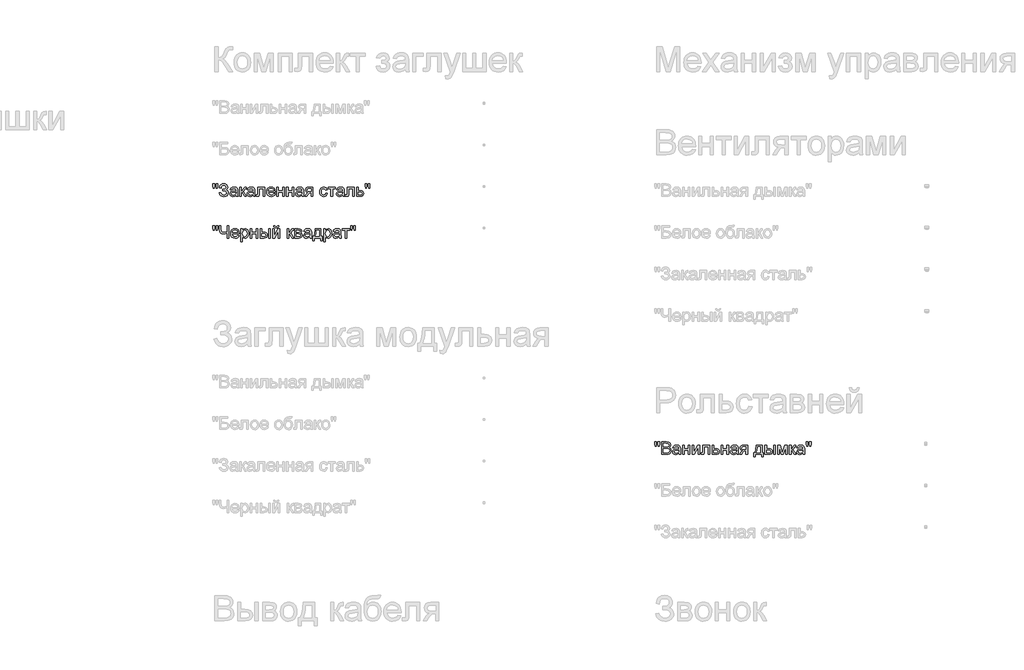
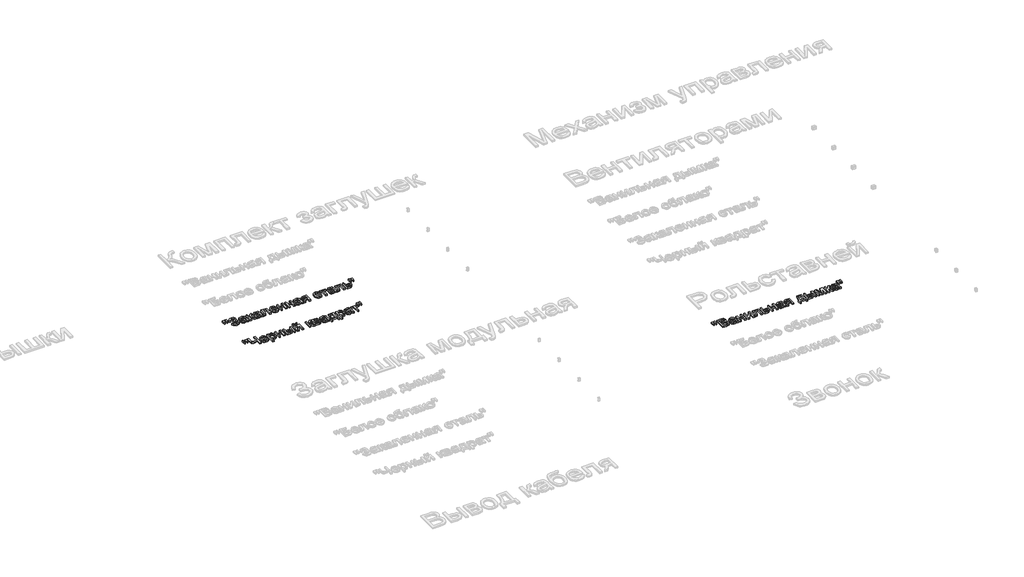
# One storey, part 69 of 168: 3 proxies.
"""IFC4 building model written with IfcOpenShell, lengths in millimetres."""

from ifc_helpers import new_model, si_unit, origin, origin_with_axes, place, context, project, spatial, polyline, outline, extrude, element, save

model = new_model("IFC4")

# Units and contexts
model_context = context("Model", 3, world=origin())
ifc_project = project(units=[si_unit("LENGTHUNIT", "METRE", prefix="MILLI")], contexts=[model_context])

# Site, building, storey
site = spatial("IfcSite", under=ifc_project)
building = spatial("IfcBuilding", under=site)
storey = spatial("IfcBuildingStorey", under=building, Name="Этаж 01", Elevation=0.0)

# Proxies
placement = place(None, origin())
element("IfcBuildingElementProxy", 1, Name="150", ObjectType="150", at=placement, inside=storey, context=model_context, shape_type="SweptSolid", body=[
    extrude(outline(polyline([(49080.1485789, -32370.3300622), (49075.550054, -32341.2305964), (49075.550054, -32316.1778325), (49094.3856121, -32316.1778325), (49094.3856121, -32341.2305964), (49090.2653338, -32370.3300622), (49080.1485789, -32370.3300622)])), origin_with_axes(), (0.0, 0.0, 1.0), 20.0),
    extrude(outline(polyline([(49117.7093306, -32370.3300622), (49113.2211703, -32341.2305964), (49113.2211703, -32316.1778325), (49132.0567284, -32316.1778325), (49132.0567284, -32341.2305964), (49127.6421445, -32370.3300622), (49117.7093306, -32370.3300622)])), origin_with_axes(), (0.0, 0.0, 1.0), 20.0),
    extrude(outline(polyline([(49150.8922866, -32424.4822919), (49169.7278447, -32419.7734024), (49181.2977335, -32440.172459), (49192.2284273, -32447.829003), (49206.2217387, -32450.3811843), (49220.398991, -32448.4635995), (49231.2193202, -32442.7108448), (49238.0757209, -32434.2449603), (49240.3611878, -32424.1879863), (49237.8641888, -32413.6527657), (49230.3731916, -32405.517975), (49218.5779752, -32400.3170433), (49203.1683181, -32398.5833994), (49193.2722924, -32398.5833994), (49193.2722924, -32379.7478413), (49214.591054, -32378.221131), (49227.6324708, -32370.4220327), (49233.2978535, -32356.1666054), (49231.4124583, -32347.2960508), (49225.7562726, -32339.6670979), (49216.8811195, -32334.4109839), (49205.3388219, -32332.6589459), (49186.1169876, -32338.0484171), (49175.117316, -32352.3406326), (49172.0822895, -32365.6211727), (49153.2467313, -32360.9122831), (49159.0983543, -32340.3108914), (49169.7002536, -32325.5956116), (49185.0524291, -32316.7664437), (49205.1548809, -32313.8233877), (49224.5468605, -32316.8814068), (49239.4598769, -32326.0554641), (49248.965028, -32339.3222085), (49252.1334117, -32354.6582892), (49247.2037929, -32373.3007093), (49232.4149367, -32387.2158458), (49242.8903765, -32392.0396984), (49251.5080123, -32400.1836861), (49257.2745625, -32410.948833), (49259.196746, -32423.6361633), (49255.508729, -32441.4738415), (49244.444678, -32456.1385376), (49227.2921799, -32465.9471913), (49205.3388219, -32469.2167425), (49186.2365493, -32466.4208393), (49170.7947025, -32458.0331298), (49159.0132816, -32444.053614), (49150.8922866, -32424.4822919)])), origin_with_axes(), (0.0, 0.0, 1.0), 20.0),
    extrude(outline(polyline([(49353.3745367, -32452.7356291), (49335.1091957, -32465.5011344), (49314.9308682, -32469.2167425), (49299.1901174, -32466.9818594), (49287.5788419, -32460.27721), (49280.4189386, -32450.0960758), (49278.0323041, -32437.4317381), (49281.6375477, -32422.5325173), (49291.110509, -32411.7167867), (49304.2990786, -32405.5363691), (49320.596251, -32402.7036778), (49353.2641721, -32396.2289547), (49353.3745367, -32392.0350999), (49352.0777527, -32383.6289963), (49348.1874006, -32378.1291605), (49339.4869914, -32374.0456704), (49327.3652797, -32372.684507), (49308.3089923, -32376.3081446), (49299.222307, -32389.1656204), (49280.3867489, -32386.8111756), (49288.5353351, -32368.4170758), (49304.9428721, -32357.6381334), (49329.7933008, -32353.8489488), (49352.6203786, -32357.196675), (49365.5146426, -32365.6027786), (49371.2903899, -32378.3866779), (49372.2100949, -32394.8677913), (49372.2100949, -32418.3018744), (49373.1665881, -32451.0249778), (49376.9189844, -32466.8622977), (49358.0834263, -32466.8622977), (49353.3745367, -32452.7356291)]), holes=[polyline([(49353.3745367, -32415.0645128), (49322.9874839, -32420.8402601), (49306.782282, -32423.8936807), (49299.4430362, -32428.8600876), (49296.8678623, -32436.1073629), (49302.4780627, -32446.2976942), (49318.940782, -32450.3811843), (49337.9970693, -32445.8746299), (49350.284328, -32434.9669288), (49353.2641721, -32420.3988017), (49353.3745367, -32415.0645128)])]), origin_with_axes(), (0.0, 0.0, 1.0), 20.0),
    extrude(outline(polyline([(49398.1089873, -32356.2033936), (49416.9445455, -32356.2033936), (49416.9445455, -32403.292289), (49429.5628979, -32399.9077746), (49439.900382, -32380.1892997), (49448.4904266, -32363.1747574), (49456.0687957, -32357.6381334), (49469.8459764, -32356.2033936), (49473.4512199, -32356.2033936), (49473.4512199, -32375.1493163), (49468.3744484, -32375.0389517), (49459.1773985, -32377.0255145), (49452.7026754, -32389.4231377), (49445.1059122, -32402.8324365), (49434.4557285, -32409.3991301), (49446.3383169, -32416.7291788), (49458.0001762, -32432.1710256), (49478.1601095, -32466.8622977), (49456.7493774, -32466.8622977), (49436.9941142, -32432.9067896), (49427.0613004, -32418.5409977), (49416.9445455, -32415.0645128), (49416.9445455, -32466.8622977), (49398.1089873, -32466.8622977), (49398.1089873, -32356.2033936)])), origin_with_axes(), (0.0, 0.0, 1.0), 20.0),
    extrude(outline(polyline([(49560.5656764, -32452.7356291), (49542.3003353, -32465.5011344), (49522.1220079, -32469.2167425), (49506.381257, -32466.9818594), (49494.7699816, -32460.27721), (49487.6100782, -32450.0960758), (49485.2234438, -32437.4317381), (49488.8286873, -32422.5325173), (49498.3016487, -32411.7167867), (49511.4902183, -32405.5363691), (49527.7873906, -32402.7036778), (49560.4553118, -32396.2289547), (49560.5656764, -32392.0350999), (49559.2688924, -32383.6289963), (49555.3785403, -32378.1291605), (49546.6781311, -32374.0456704), (49534.5564193, -32372.684507), (49515.500132, -32376.3081446), (49506.4134467, -32389.1656204), (49487.5778886, -32386.8111756), (49495.7264748, -32368.4170758), (49512.1340117, -32357.6381334), (49536.9844405, -32353.8489488), (49559.8115183, -32357.196675), (49572.7057822, -32365.6027786), (49578.4815296, -32378.3866779), (49579.4012346, -32394.8677913), (49579.4012346, -32418.3018744), (49580.3577277, -32451.0249778), (49584.1101241, -32466.8622977), (49565.2745659, -32466.8622977), (49560.5656764, -32452.7356291)]), holes=[polyline([(49560.5656764, -32415.0645128), (49530.1786236, -32420.8402601), (49513.9734217, -32423.8936807), (49506.6341759, -32428.8600876), (49504.0590019, -32436.1073629), (49509.6692024, -32446.2976942), (49526.1319217, -32450.3811843), (49545.188209, -32445.8746299), (49557.4754676, -32434.9669288), (49560.4553118, -32420.3988017), (49560.5656764, -32415.0645128)])]), origin_with_axes(), (0.0, 0.0, 1.0), 20.0),
    extrude(outline(polyline([(49614.7179061, -32356.2033936), (49699.4779178, -32356.2033936), (49699.4779178, -32466.7519331), (49680.6423596, -32466.7519331), (49680.6423596, -32375.0389517), (49633.5534643, -32375.0389517), (49633.5534643, -32427.830018), (49632.2842714, -32452.1838061), (49625.3129076, -32462.4661079), (49608.8317942, -32466.8622977), (49593.5279032, -32465.9058045), (49593.5279032, -32448.0267396), (49601.9524009, -32448.0267396), (49610.4688691, -32446.8679113), (49613.8717775, -32443.1890913), (49614.7179061, -32426.7631603), (49614.7179061, -32356.2033936)])), origin_with_axes(), (0.0, 0.0, 1.0), 20.0),
    extrude(outline(polyline([(49805.2072032, -32433.900071), (49823.6748794, -32436.2545157), (49817.0208138, -32450.1696522), (49806.4028197, -32460.5715156), (49792.0600204, -32467.0554358), (49774.2315392, -32469.2167425), (49752.1310283, -32465.4873388), (49735.1256831, -32454.2991276), (49724.2823613, -32436.3786759), (49720.6679207, -32412.4525506), (49724.3191495, -32387.7216835), (49735.2728359, -32369.2264162), (49752.0482549, -32357.6933157), (49773.1646814, -32353.8489488), (49793.6235189, -32357.6841186), (49809.971275, -32369.189628), (49820.6904367, -32387.6481071), (49824.2634906, -32412.342186), (49824.153126, -32417.4189576), (49739.5034789, -32417.4189576), (49742.763833, -32431.518035), (49750.3376036, -32441.8831103), (49761.2682974, -32448.2566658), (49774.5994212, -32450.3811843), (49793.0670974, -32446.444847), (49805.2072032, -32433.900071)]), holes=[polyline([(49739.5034789, -32398.5833994), (49805.4279324, -32398.5833994), (49802.8803496, -32388.6321915), (49797.8863515, -32381.5136749), (49786.9050739, -32374.8917989), (49773.091105, -32372.684507), (49760.3945777, -32374.445742), (49749.8961452, -32379.7294472), (49742.5982861, -32387.9654053), (49739.5034789, -32398.5833994)])]), origin_with_axes(), (0.0, 0.0, 1.0), 20.0),
    extrude(outline(polyline([(49843.0990487, -32356.2033936), (49861.9346069, -32356.2033936), (49861.9346069, -32398.5833994), (49911.377947, -32398.5833994), (49911.377947, -32356.2033936), (49930.2135052, -32356.2033936), (49930.2135052, -32466.8622977), (49911.377947, -32466.8622977), (49911.377947, -32417.4189576), (49861.9346069, -32417.4189576), (49861.9346069, -32466.8622977), (49843.0990487, -32466.8622977), (49843.0990487, -32356.2033936)])), origin_with_axes(), (0.0, 0.0, 1.0), 20.0),
    extrude(outline(polyline([(49958.4668424, -32356.2033936), (49977.3024005, -32356.2033936), (49977.3024005, -32398.5833994), (50026.7457407, -32398.5833994), (50026.7457407, -32356.2033936), (50045.5812988, -32356.2033936), (50045.5812988, -32466.8622977), (50026.7457407, -32466.8622977), (50026.7457407, -32417.4189576), (49977.3024005, -32417.4189576), (49977.3024005, -32466.8622977), (49958.4668424, -32466.8622977), (49958.4668424, -32356.2033936)])), origin_with_axes(), (0.0, 0.0, 1.0), 20.0),
    extrude(outline(polyline([(50144.4679792, -32452.7356291), (50126.2026381, -32465.5011344), (50106.0243107, -32469.2167425), (50090.2835598, -32466.9818594), (50078.6722843, -32460.27721), (50071.512381, -32450.0960758), (50069.1257465, -32437.4317381), (50072.7309901, -32422.5325173), (50082.2039515, -32411.7167867), (50095.392521, -32405.5363691), (50111.6896934, -32402.7036778), (50144.3576146, -32396.2289547), (50144.4679792, -32392.0350999), (50143.1711951, -32383.6289963), (50139.280843, -32378.1291605), (50130.5804338, -32374.0456704), (50118.4587221, -32372.684507), (50099.4024347, -32376.3081446), (50090.3157495, -32389.1656204), (50071.4801913, -32386.8111756), (50079.6287775, -32368.4170758), (50096.0363145, -32357.6381334), (50120.8867433, -32353.8489488), (50143.7138211, -32357.196675), (50156.608085, -32365.6027786), (50162.3838323, -32378.3866779), (50163.3035373, -32394.8677913), (50163.3035373, -32418.3018744), (50164.2600305, -32451.0249778), (50168.0124268, -32466.8622977), (50149.1768687, -32466.8622977), (50144.4679792, -32452.7356291)]), holes=[polyline([(50144.4679792, -32415.0645128), (50114.0809264, -32420.8402601), (50097.8757245, -32423.8936807), (50090.5364787, -32428.8600876), (50087.9613047, -32436.1073629), (50093.5715051, -32446.2976942), (50110.0342244, -32450.3811843), (50129.0905118, -32445.8746299), (50141.3777704, -32434.9669288), (50144.3576146, -32420.3988017), (50144.4679792, -32415.0645128)])]), origin_with_axes(), (0.0, 0.0, 1.0), 20.0),
    extrude(outline(polyline([(50273.9624415, -32356.2033936), (50273.9624415, -32466.8622977), (50255.1268833, -32466.8622977), (50255.1268833, -32424.4822919), (50244.8629756, -32424.4822919), (50230.8834598, -32426.8735249), (50217.7500726, -32442.949968), (50202.7404872, -32466.8622977), (50180.9618731, -32466.8622977), (50199.8710076, -32436.6223977), (50208.2219289, -32425.7698789), (50215.9106626, -32420.9506247), (50203.0347928, -32417.0050903), (50193.9848957, -32409.5094947), (50188.6322127, -32399.5398926), (50186.847985, -32388.172339), (50189.2852032, -32375.278075), (50196.5968579, -32365.0693497), (50208.5254316, -32358.4198826), (50224.8134069, -32356.2033936), (50273.9624415, -32356.2033936)]), holes=[polyline([(50255.1268833, -32375.0389517), (50230.2948486, -32375.0389517), (50217.4695626, -32376.1288021), (50210.1900976, -32379.3983534), (50205.6835431, -32389.6070787), (50207.3436107, -32396.7853762), (50212.3238132, -32401.7655787), (50235.8498668, -32405.6467337), (50255.1268833, -32405.6467337), (50255.1268833, -32375.0389517)])]), origin_with_axes(), (0.0, 0.0, 1.0), 20.0),
    extrude(outline(polyline([(50431.710241, -32426.8367367), (50450.5457991, -32429.1911814), (50445.2942837, -32445.9436078), (50435.4258491, -32458.6033469), (50421.8693976, -32466.5633936), (50405.5538311, -32469.2167425), (50385.518058, -32465.5149299), (50369.8508835, -32454.4094922), (50359.7387272, -32436.387873), (50356.3680084, -32411.9375159), (50357.8073467, -32395.1758924), (50362.1253616, -32380.6491522), (50369.391031, -32368.918315), (50379.6733328, -32360.5444011), (50391.974387, -32355.5228119), (50405.2963137, -32353.8489488), (50421.2118085, -32356.1482113), (50433.9359271, -32363.0459987), (50443.0639991, -32374.174429), (50448.1913544, -32389.1656204), (50429.3557962, -32391.5200651), (50420.6185988, -32377.4117906), (50405.4434665, -32372.684507), (50393.271171, -32375.0113606), (50383.6096701, -32381.9919214), (50377.3050924, -32394.0032686), (50375.2035665, -32411.4224811), (50377.2591072, -32429.0762183), (50383.4257291, -32441.1289522), (50392.9124861, -32448.0681263), (50404.9284317, -32450.3811843), (50414.6819031, -32448.9372475), (50422.678738, -32444.605437), (50428.4958721, -32437.2753883), (50431.710241, -32426.8367367)])), origin_with_axes(), (0.0, 0.0, 1.0), 20.0),
    extrude(outline(polyline([(50457.6091334, -32356.2033936), (50547.0780347, -32356.2033936), (50547.0780347, -32375.0389517), (50511.7613631, -32375.0389517), (50511.7613631, -32466.8622977), (50492.925805, -32466.8622977), (50492.925805, -32375.0389517), (50457.6091334, -32375.0389517), (50457.6091334, -32356.2033936)])), origin_with_axes(), (0.0, 0.0, 1.0), 20.0),
    extrude(outline(polyline([(50634.1924911, -32452.7356291), (50615.9271501, -32465.5011344), (50595.7488226, -32469.2167425), (50580.0080718, -32466.9818594), (50568.3967963, -32460.27721), (50561.236893, -32450.0960758), (50558.8502585, -32437.4317381), (50562.4555021, -32422.5325173), (50571.9284634, -32411.7167867), (50585.117033, -32405.5363691), (50601.4142054, -32402.7036778), (50634.0821265, -32396.2289547), (50634.1924911, -32392.0350999), (50632.8957071, -32383.6289963), (50629.005355, -32378.1291605), (50620.3049458, -32374.0456704), (50608.1832341, -32372.684507), (50589.1269467, -32376.3081446), (50580.0402614, -32389.1656204), (50561.2047033, -32386.8111756), (50569.3532895, -32368.4170758), (50585.7608265, -32357.6381334), (50610.6112552, -32353.8489488), (50633.438333, -32357.196675), (50646.332597, -32365.6027786), (50652.1083443, -32378.3866779), (50653.0280493, -32394.8677913), (50653.0280493, -32418.3018744), (50653.9845425, -32451.0249778), (50657.7369388, -32466.8622977), (50638.9013807, -32466.8622977), (50634.1924911, -32452.7356291)]), holes=[polyline([(50634.1924911, -32415.0645128), (50603.8054383, -32420.8402601), (50587.6002364, -32423.8936807), (50580.2609906, -32428.8600876), (50577.6858167, -32436.1073629), (50583.2960171, -32446.2976942), (50599.7587364, -32450.3811843), (50618.8150237, -32445.8746299), (50631.1022824, -32434.9669288), (50634.0821265, -32420.3988017), (50634.1924911, -32415.0645128)])]), origin_with_axes(), (0.0, 0.0, 1.0), 20.0),
    extrude(outline(polyline([(50688.3447208, -32356.2033936), (50773.1047325, -32356.2033936), (50773.1047325, -32466.7519331), (50754.2691744, -32466.7519331), (50754.2691744, -32375.0389517), (50707.180279, -32375.0389517), (50707.180279, -32427.830018), (50705.9110861, -32452.1838061), (50698.9397223, -32462.4661079), (50682.4586089, -32466.8622977), (50667.1547179, -32465.9058045), (50667.1547179, -32448.0267396), (50675.5792156, -32448.0267396), (50684.0956838, -32446.8679113), (50687.4985922, -32443.1890913), (50688.3447208, -32426.7631603), (50688.3447208, -32356.2033936)])), origin_with_axes(), (0.0, 0.0, 1.0), 20.0),
    extrude(outline(polyline([(50801.3580697, -32356.2033936), (50820.1936279, -32356.2033936), (50820.1936279, -32396.2289547), (50841.8986656, -32396.2289547), (50860.7158297, -32398.587998), (50874.6401632, -32405.6651278), (50883.2486019, -32416.8901272), (50886.1180814, -32431.692779), (50883.6762647, -32445.1710556), (50876.3508145, -32456.5432078), (50863.6542871, -32464.2825252), (50845.099239, -32466.8622977), (50801.3580697, -32466.8622977), (50801.3580697, -32356.2033936)]), holes=[polyline([(50820.1936279, -32448.0267396), (50837.7783873, -32448.0267396), (50860.4951005, -32444.0720081), (50865.5856676, -32439.0090322), (50867.2825233, -32431.7295672), (50862.260934, -32420.1412843), (50854.1905228, -32416.3337057), (50840.0224674, -32415.0645128), (50820.1936279, -32415.0645128), (50820.1936279, -32448.0267396)])]), origin_with_axes(), (0.0, 0.0, 1.0), 20.0),
    extrude(outline(polyline([(50909.5521645, -32370.3300622), (50904.9536396, -32341.2305964), (50904.9536396, -32316.1778325), (50923.7891977, -32316.1778325), (50923.7891977, -32341.2305964), (50919.6689194, -32370.3300622), (50909.5521645, -32370.3300622)])), origin_with_axes(), (0.0, 0.0, 1.0), 20.0),
    extrude(outline(polyline([(50947.1129162, -32370.3300622), (50942.6247559, -32341.2305964), (50942.6247559, -32316.1778325), (50961.460314, -32316.1778325), (50961.460314, -32341.2305964), (50957.0457301, -32370.3300622), (50947.1129162, -32370.3300622)])), origin_with_axes(), (0.0, 0.0, 1.0), 20.0),
])
element("IfcBuildingElementProxy", 2, Name="150", ObjectType="150", at=placement, inside=storey, context=model_context, shape_type="SweptSolid", body=[
    extrude(outline(polyline([(49080.1485789, -32870.3300622), (49075.550054, -32841.2305964), (49075.550054, -32816.1778325), (49094.3856121, -32816.1778325), (49094.3856121, -32841.2305964), (49090.2653338, -32870.3300622), (49080.1485789, -32870.3300622)])), origin_with_axes(), (0.0, 0.0, 1.0), 20.0),
    extrude(outline(polyline([(49117.7093306, -32870.3300622), (49113.2211703, -32841.2305964), (49113.2211703, -32816.1778325), (49132.0567284, -32816.1778325), (49132.0567284, -32841.2305964), (49127.6421445, -32870.3300622), (49117.7093306, -32870.3300622)])), origin_with_axes(), (0.0, 0.0, 1.0), 20.0),
    extrude(outline(polyline([(49263.9056355, -32966.8622977), (49245.0700773, -32966.8622977), (49245.0700773, -32906.5296505), (49220.0908899, -32914.6966308), (49198.4226404, -32917.4189576), (49183.7395502, -32915.556555), (49170.886673, -32909.9693472), (49160.926268, -32901.5172583), (49154.9205944, -32891.0602126), (49150.8922866, -32861.0594359), (49150.8922866, -32816.1778325), (49169.7278447, -32816.1778325), (49169.7278447, -32858.5210502), (49171.990319, -32878.8879171), (49178.7777418, -32890.8394834), (49188.7381468, -32896.6474204), (49200.5195677, -32898.5833994), (49222.2521966, -32896.2473488), (49245.0700773, -32889.2391968), (49245.0700773, -32816.1778325), (49263.9056355, -32816.1778325), (49263.9056355, -32966.8622977)])), origin_with_axes(), (0.0, 0.0, 1.0), 20.0),
    extrude(outline(polyline([(49371.9893657, -32933.900071), (49390.4570418, -32936.2545157), (49383.8029763, -32950.1696522), (49373.1849822, -32960.5715156), (49358.8421829, -32967.0554358), (49341.0137017, -32969.2167425), (49318.9131908, -32965.4873388), (49301.9078456, -32954.2991276), (49291.0645238, -32936.3786759), (49287.4500832, -32912.4525506), (49291.101312, -32887.7216835), (49302.0549984, -32869.2264162), (49318.8304174, -32857.6933157), (49339.9468439, -32853.8489488), (49360.4056814, -32857.6841186), (49376.7534375, -32869.189628), (49387.4725992, -32887.6481071), (49391.045653, -32912.342186), (49390.9352884, -32917.4189576), (49306.2856413, -32917.4189576), (49309.5459955, -32931.518035), (49317.1197661, -32941.8831103), (49328.0504599, -32948.2566658), (49341.3815837, -32950.3811843), (49359.8492598, -32946.444847), (49371.9893657, -32933.900071)]), holes=[polyline([(49306.2856413, -32898.5833994), (49372.2100949, -32898.5833994), (49369.6625121, -32888.6321915), (49364.668514, -32881.5136749), (49353.6872364, -32874.8917989), (49339.8732675, -32872.684507), (49327.1767401, -32874.445742), (49316.6783077, -32879.7294472), (49309.3804486, -32887.9654053), (49306.2856413, -32898.5833994)])]), origin_with_axes(), (0.0, 0.0, 1.0), 20.0),
    extrude(outline(polyline([(49409.8812112, -33009.2423036), (49409.8812112, -32856.2033936), (49428.7167693, -32856.2033936), (49428.7167693, -32874.6710697), (49441.739792, -32859.054479), (49459.3245513, -32853.8489488), (49472.0624654, -32855.6699647), (49483.2000928, -32861.1330123), (49492.268384, -32869.9069979), (49498.7982894, -32881.6608277), (49504.0590019, -32910.6867171), (49502.5736784, -32926.7953499), (49498.1177077, -32941.2025286), (49490.8336442, -32953.1770875), (49480.8640422, -32961.9878613), (49469.2527667, -32967.4095222), (49457.043683, -32969.2167425), (49440.6545401, -32964.3790943), (49428.7167693, -32952.1470179), (49428.7167693, -33009.2423036), (49409.8812112, -33009.2423036)]), holes=[polyline([(49428.7167693, -32912.4157624), (49430.7539159, -32929.301546), (49436.8653555, -32941.1105581), (49445.8830629, -32948.0635278), (49456.6390128, -32950.3811843), (49467.5697066, -32947.9807543), (49476.8173402, -32940.7794643), (49483.1219179, -32928.5381909), (49485.2234438, -32911.0178109), (49483.1725017, -32894.2239978), (49477.0196753, -32882.2494388), (49468.0157635, -32875.0757399), (49457.411565, -32872.684507), (49446.7659797, -32875.2274913), (49437.4171785, -32882.8564441), (49430.8918716, -32895.3322423), (49428.7167693, -32912.4157624)])]), origin_with_axes(), (0.0, 0.0, 1.0), 20.0),
    extrude(outline(polyline([(49525.2490049, -32856.2033936), (49544.084563, -32856.2033936), (49544.084563, -32898.5833994), (49593.5279032, -32898.5833994), (49593.5279032, -32856.2033936), (49612.3634613, -32856.2033936), (49612.3634613, -32966.8622977), (49593.5279032, -32966.8622977), (49593.5279032, -32917.4189576), (49544.084563, -32917.4189576), (49544.084563, -32966.8622977), (49525.2490049, -32966.8622977), (49525.2490049, -32856.2033936)])), origin_with_axes(), (0.0, 0.0, 1.0), 20.0),
    extrude(outline(polyline([(49744.2123684, -32856.2033936), (49763.0479266, -32856.2033936), (49763.0479266, -32966.8622977), (49744.2123684, -32966.8622977), (49744.2123684, -32856.2033936)])), origin_with_axes(), (0.0, 0.0, 1.0), 20.0),
    extrude(outline(polyline([(49640.6167986, -32856.2033936), (49659.4523567, -32856.2033936), (49659.4523567, -32896.2289547), (49682.739287, -32896.2289547), (49702.8670307, -32898.587998), (49717.780047, -32905.6651278), (49727.0092866, -32916.8901272), (49730.0856998, -32931.692779), (49727.5059273, -32945.1710556), (49719.7666098, -32956.5432078), (49706.3619096, -32964.2825252), (49686.785989, -32966.8622977), (49640.6167986, -32966.8622977), (49640.6167986, -32856.2033936)]), holes=[polyline([(49659.4523567, -32948.0267396), (49678.8029497, -32948.0267396), (49703.7821371, -32944.0720081), (49709.3831405, -32939.0090322), (49711.2501416, -32931.7295672), (49705.7135176, -32920.1412843), (49696.8337659, -32916.3337057), (49681.267759, -32915.0645128), (49659.4523567, -32915.0645128), (49659.4523567, -32948.0267396)])]), origin_with_axes(), (0.0, 0.0, 1.0), 20.0),
    extrude(outline(polyline([(49791.3012638, -32856.2033936), (49810.1368219, -32856.2033936), (49810.1368219, -32940.5955233), (49856.4163769, -32856.2033936), (49880.770165, -32856.2033936), (49880.770165, -32966.8622977), (49861.9346069, -32966.8622977), (49861.9346069, -32882.9852028), (49815.9493575, -32966.8622977), (49791.3012638, -32966.8622977), (49791.3012638, -32856.2033936)])), origin_with_axes(), (0.0, 0.0, 1.0), 20.0),
    extrude(outline(polyline([(49852.5168278, -32816.1778325), (49866.6434964, -32816.1778325), (49863.6038714, -32828.2397634), (49857.5016288, -32837.1287121), (49848.6126801, -32842.6055553), (49837.2129368, -32844.4311697), (49824.8429047, -32842.6193509), (49815.2503817, -32837.1838944), (49808.6928851, -32828.3087413), (49805.4279324, -32816.1778325), (49819.554601, -32816.1778325), (49824.8521017, -32826.7912281), (49835.5206796, -32830.3045011), (49847.219327, -32826.9015927), (49852.5168278, -32816.1778325)])), origin_with_axes(), (0.0, 0.0, 1.0), 20.0),
    extrude(outline(polyline([(49967.8846215, -32856.2033936), (49986.7201796, -32856.2033936), (49986.7201796, -32903.292289), (49999.3385321, -32899.9077746), (50009.6760161, -32880.1892997), (50018.2660607, -32863.1747574), (50025.8444298, -32857.6381334), (50039.6216105, -32856.2033936), (50043.2268541, -32856.2033936), (50043.2268541, -32875.1493163), (50038.1500825, -32875.0389517), (50028.9530327, -32877.0255145), (50022.4783096, -32889.4231377), (50014.8815464, -32902.8324365), (50004.2313626, -32909.3991301), (50016.113951, -32916.7291788), (50027.7758103, -32932.1710256), (50047.9357436, -32966.8622977), (50026.5250115, -32966.8622977), (50006.7697484, -32932.9067896), (49996.8369345, -32918.5409977), (49986.7201796, -32915.0645128), (49986.7201796, -32966.8622977), (49967.8846215, -32966.8622977), (49967.8846215, -32856.2033936)])), origin_with_axes(), (0.0, 0.0, 1.0), 20.0),
    extrude(outline(polyline([(50059.7079675, -32856.2033936), (50101.2050565, -32856.2033936), (50123.9585579, -32858.7233853), (50136.7608514, -32867.9572233), (50142.1135344, -32884.0520606), (50138.8761728, -32897.1302655), (50129.1273, -32906.4560741), (50141.7824406, -32916.6647995), (50146.8224239, -32934.4151058), (50143.6310476, -32948.7717006), (50136.0434815, -32958.8792584), (50124.0321343, -32964.8665379), (50107.569415, -32966.8622977), (50059.7079675, -32966.8622977), (50059.7079675, -32856.2033936)]), holes=[polyline([(50078.5435256, -32898.5833994), (50097.1583546, -32898.5833994), (50112.5174279, -32897.6269062), (50119.9854324, -32893.8009335), (50123.2779762, -32886.884752), (50121.8340394, -32881.2653545), (50117.5022289, -32877.6509139), (50097.7469658, -32875.0389517), (50078.5435256, -32875.0389517), (50078.5435256, -32898.5833994)]), polyline([(50078.5435256, -32948.0267396), (50101.6465149, -32948.0267396), (50122.137542, -32944.6238311), (50126.377382, -32939.9839195), (50127.9868658, -32932.8700014), (50124.7678983, -32923.8017102), (50116.3801888, -32918.5226036), (50099.8071049, -32917.4189576), (50078.5435256, -32917.4189576), (50078.5435256, -32948.0267396)])]), origin_with_axes(), (0.0, 0.0, 1.0), 20.0),
    extrude(outline(polyline([(50241.0002147, -32952.7356291), (50222.7348736, -32965.5011344), (50202.5565462, -32969.2167425), (50186.8157953, -32966.9818594), (50175.2045198, -32960.27721), (50168.0446165, -32950.0960758), (50165.6579821, -32937.4317381), (50169.2632256, -32922.5325173), (50178.736187, -32911.7167867), (50191.9247565, -32905.5363691), (50208.2219289, -32902.7036778), (50240.8898501, -32896.2289547), (50241.0002147, -32892.0350999), (50239.7034307, -32883.6289963), (50235.8130786, -32878.1291605), (50227.1126694, -32874.0456704), (50214.9909576, -32872.684507), (50195.9346703, -32876.3081446), (50186.847985, -32889.1656204), (50168.0124268, -32886.8111756), (50176.161013, -32868.4170758), (50192.56855, -32857.6381334), (50217.4189788, -32853.8489488), (50240.2460566, -32857.196675), (50253.1403205, -32865.6027786), (50258.9160679, -32878.3866779), (50259.8357728, -32894.8677913), (50259.8357728, -32918.3018744), (50260.792266, -32951.0249778), (50264.5446624, -32966.8622977), (50245.7091042, -32966.8622977), (50241.0002147, -32952.7356291)]), holes=[polyline([(50241.0002147, -32915.0645128), (50210.6131619, -32920.8402601), (50194.40796, -32923.8936807), (50187.0687142, -32928.8600876), (50184.4935402, -32936.1073629), (50190.1037407, -32946.2976942), (50206.5664599, -32950.3811843), (50225.6227473, -32945.8746299), (50237.9100059, -32934.9669288), (50240.8898501, -32920.3988017), (50241.0002147, -32915.0645128)])]), origin_with_axes(), (0.0, 0.0, 1.0), 20.0),
    extrude(outline(polyline([(50302.2157787, -32856.2033936), (50372.8491218, -32856.2033936), (50372.8491218, -32948.0267396), (50386.9757904, -32948.0267396), (50386.9757904, -32997.4700797), (50368.1402322, -32997.4700797), (50368.1402322, -32966.8622977), (50290.4435548, -32966.8622977), (50290.4435548, -32997.4700797), (50271.6079967, -32997.4700797), (50271.6079967, -32948.0267396), (50283.3802205, -32948.0267396), (50291.9380754, -32932.5619002), (50297.9299534, -32912.1030628), (50302.2157787, -32856.2033936)]), holes=[polyline([(50318.6968921, -32875.0389517), (50314.2823081, -32917.9523865), (50304.5702235, -32948.0267396), (50354.0135636, -32948.0267396), (50354.0135636, -32875.0389517), (50318.6968921, -32875.0389517)])]), origin_with_axes(), (0.0, 0.0, 1.0), 20.0),
    extrude(outline(polyline([(50408.1657933, -33009.2423036), (50408.1657933, -32856.2033936), (50427.0013514, -32856.2033936), (50427.0013514, -32874.6710697), (50440.0243741, -32859.054479), (50457.6091334, -32853.8489488), (50470.3470475, -32855.6699647), (50481.4846749, -32861.1330123), (50490.5529661, -32869.9069979), (50497.0828715, -32881.6608277), (50502.3435841, -32910.6867171), (50500.8582605, -32926.7953499), (50496.4022898, -32941.2025286), (50489.1182263, -32953.1770875), (50479.1486243, -32961.9878613), (50467.5373488, -32967.4095222), (50455.3282651, -32969.2167425), (50438.9391222, -32964.3790943), (50427.0013514, -32952.1470179), (50427.0013514, -33009.2423036), (50408.1657933, -33009.2423036)]), holes=[polyline([(50427.0013514, -32912.4157624), (50429.038498, -32929.301546), (50435.1499376, -32941.1105581), (50444.167645, -32948.0635278), (50454.9235949, -32950.3811843), (50465.8542887, -32947.9807543), (50475.1019223, -32940.7794643), (50481.4065, -32928.5381909), (50483.5080259, -32911.0178109), (50481.4570838, -32894.2239978), (50475.3042574, -32882.2494388), (50466.3003456, -32875.0757399), (50455.6961471, -32872.684507), (50445.0505618, -32875.2274913), (50435.7017606, -32882.8564441), (50429.1764537, -32895.3322423), (50427.0013514, -32912.4157624)])]), origin_with_axes(), (0.0, 0.0, 1.0), 20.0),
    extrude(outline(polyline([(50594.1669301, -32952.7356291), (50575.901589, -32965.5011344), (50555.7232616, -32969.2167425), (50539.9825107, -32966.9818594), (50528.3712352, -32960.27721), (50521.2113319, -32950.0960758), (50518.8246974, -32937.4317381), (50522.429941, -32922.5325173), (50531.9029024, -32911.7167867), (50545.0914719, -32905.5363691), (50561.3886443, -32902.7036778), (50594.0565655, -32896.2289547), (50594.1669301, -32892.0350999), (50592.870146, -32883.6289963), (50588.9797939, -32878.1291605), (50580.2793847, -32874.0456704), (50568.157673, -32872.684507), (50549.1013856, -32876.3081446), (50540.0147004, -32889.1656204), (50521.1791422, -32886.8111756), (50529.3277284, -32868.4170758), (50545.7352654, -32857.6381334), (50570.5856942, -32853.8489488), (50593.412772, -32857.196675), (50606.3070359, -32865.6027786), (50612.0827832, -32878.3866779), (50613.0024882, -32894.8677913), (50613.0024882, -32918.3018744), (50613.9589814, -32951.0249778), (50617.7113777, -32966.8622977), (50598.8758196, -32966.8622977), (50594.1669301, -32952.7356291)]), holes=[polyline([(50594.1669301, -32915.0645128), (50563.7798773, -32920.8402601), (50547.5746754, -32923.8936807), (50540.2354296, -32928.8600876), (50537.6602556, -32936.1073629), (50543.270456, -32946.2976942), (50559.7331753, -32950.3811843), (50578.7894627, -32945.8746299), (50591.0767213, -32934.9669288), (50594.0565655, -32920.3988017), (50594.1669301, -32915.0645128)])]), origin_with_axes(), (0.0, 0.0, 1.0), 20.0),
    extrude(outline(polyline([(50629.4836016, -32856.2033936), (50718.9525028, -32856.2033936), (50718.9525028, -32875.0389517), (50683.6358313, -32875.0389517), (50683.6358313, -32966.8622977), (50664.8002731, -32966.8622977), (50664.8002731, -32875.0389517), (50629.4836016, -32875.0389517), (50629.4836016, -32856.2033936)])), origin_with_axes(), (0.0, 0.0, 1.0), 20.0),
    extrude(outline(polyline([(50735.3232516, -32870.3300622), (50730.7247267, -32841.2305964), (50730.7247267, -32816.1778325), (50749.5602848, -32816.1778325), (50749.5602848, -32841.2305964), (50745.4400065, -32870.3300622), (50735.3232516, -32870.3300622)])), origin_with_axes(), (0.0, 0.0, 1.0), 20.0),
    extrude(outline(polyline([(50772.8840033, -32870.3300622), (50768.395843, -32841.2305964), (50768.395843, -32816.1778325), (50787.2314011, -32816.1778325), (50787.2314011, -32841.2305964), (50782.8168172, -32870.3300622), (50772.8840033, -32870.3300622)])), origin_with_axes(), (0.0, 0.0, 1.0), 20.0),
])
element("IfcBuildingElementProxy", 3, Name="150", ObjectType="150", at=placement, inside=storey, context=model_context, shape_type="SweptSolid", body=[
    extrude(outline(polyline([(54389.7772739, -35470.3300622), (54385.178749, -35441.2305964), (54385.178749, -35416.1778325), (54404.0143071, -35416.1778325), (54404.0143071, -35441.2305964), (54399.8940288, -35470.3300622), (54389.7772739, -35470.3300622)])), origin_with_axes(), (0.0, 0.0, 1.0), 20.0),
    extrude(outline(polyline([(54427.3380256, -35470.3300622), (54422.8498653, -35441.2305964), (54422.8498653, -35416.1778325), (54441.6854234, -35416.1778325), (54441.6854234, -35441.2305964), (54437.2708395, -35470.3300622), (54427.3380256, -35470.3300622)])), origin_with_axes(), (0.0, 0.0, 1.0), 20.0),
    extrude(outline(polyline([(54467.5843159, -35566.8622977), (54467.5843159, -35416.1778325), (54525.0842718, -35416.1778325), (54553.2456385, -35420.6108106), (54562.7094028, -35426.2348066), (54569.8739047, -35434.2408385), (54575.8887753, -35453.517855), (54570.8303979, -35471.1210085), (54555.544901, -35484.4567308), (54566.2180773, -35490.030143), (54574.1045476, -35498.509823), (54578.9743855, -35509.3347507), (54580.5976648, -35521.9439061), (54576.1646868, -35542.19581), (54565.1834092, -35556.6167842), (54548.7942663, -35564.2687297), (54524.6428134, -35566.8622977), (54467.5843159, -35566.8622977)]), holes=[polyline([(54486.4198741, -35477.3933965), (54520.8168406, -35477.3933965), (54540.9031975, -35475.7747157), (54552.9881211, -35468.8033519), (54557.0532171, -35456.5344874), (54553.2640326, -35444.2472287), (54542.4115137, -35436.9815593), (54518.2048784, -35435.0133907), (54486.4198741, -35435.0133907), (54486.4198741, -35477.3933965)]), polyline([(54486.4198741, -35548.0267396), (54525.0474836, -35548.0267396), (54539.0269994, -35547.2909756), (54550.8544055, -35543.1890913), (54558.690292, -35534.819776), (54561.7621067, -35522.1278471), (54558.1568631, -35507.4861437), (54546.4766098, -35498.7489463), (54523.2080736, -35496.2289547), (54486.4198741, -35496.2289547), (54486.4198741, -35548.0267396)])]), origin_with_axes(), (0.0, 0.0, 1.0), 20.0),
    extrude(outline(polyline([(54674.7754556, -35552.7356291), (54656.5101145, -35565.5011344), (54636.3317871, -35569.2167425), (54620.5910362, -35566.9818594), (54608.9797608, -35560.27721), (54601.8198574, -35550.0960758), (54599.433223, -35537.4317381), (54603.0384665, -35522.5325173), (54612.5114279, -35511.7167867), (54625.6999974, -35505.5363691), (54641.9971698, -35502.7036778), (54674.665091, -35496.2289547), (54674.7754556, -35492.0350999), (54673.4786716, -35483.6289963), (54669.5883195, -35478.1291605), (54660.8879103, -35474.0456704), (54648.7661985, -35472.684507), (54629.7099112, -35476.3081446), (54620.6232259, -35489.1656204), (54601.7876677, -35486.8111756), (54609.9362539, -35468.4170758), (54626.3437909, -35457.6381334), (54651.1942197, -35453.8489488), (54674.0212975, -35457.196675), (54686.9155614, -35465.6027786), (54692.6913088, -35478.3866779), (54693.6110137, -35494.8677913), (54693.6110137, -35518.3018744), (54694.5675069, -35551.0249778), (54698.3199033, -35566.8622977), (54679.4843451, -35566.8622977), (54674.7754556, -35552.7356291)]), holes=[polyline([(54674.7754556, -35515.0645128), (54644.3884028, -35520.8402601), (54628.1832009, -35523.8936807), (54620.8439551, -35528.8600876), (54618.2687811, -35536.1073629), (54623.8789816, -35546.2976942), (54640.3417008, -35550.3811843), (54659.3979882, -35545.8746299), (54671.6852468, -35534.9669288), (54674.665091, -35520.3988017), (54674.7754556, -35515.0645128)])]), origin_with_axes(), (0.0, 0.0, 1.0), 20.0),
    extrude(outline(polyline([(54719.5099062, -35456.2033936), (54738.3454644, -35456.2033936), (54738.3454644, -35498.5833994), (54787.7888045, -35498.5833994), (54787.7888045, -35456.2033936), (54806.6243627, -35456.2033936), (54806.6243627, -35566.8622977), (54787.7888045, -35566.8622977), (54787.7888045, -35517.4189576), (54738.3454644, -35517.4189576), (54738.3454644, -35566.8622977), (54719.5099062, -35566.8622977), (54719.5099062, -35456.2033936)])), origin_with_axes(), (0.0, 0.0, 1.0), 20.0),
    extrude(outline(polyline([(54834.8776999, -35456.2033936), (54853.713258, -35456.2033936), (54853.713258, -35540.5955233), (54899.992813, -35456.2033936), (54924.3466011, -35456.2033936), (54924.3466011, -35566.8622977), (54905.511043, -35566.8622977), (54905.511043, -35482.9852028), (54859.5257936, -35566.8622977), (54834.8776999, -35566.8622977), (54834.8776999, -35456.2033936)])), origin_with_axes(), (0.0, 0.0, 1.0), 20.0),
    extrude(outline(polyline([(54962.0177174, -35456.2033936), (55046.7777291, -35456.2033936), (55046.7777291, -35566.7519331), (55027.942171, -35566.7519331), (55027.942171, -35475.0389517), (54980.8532756, -35475.0389517), (54980.8532756, -35527.830018), (54979.5840827, -35552.1838061), (54972.6127189, -35562.4661079), (54956.1316055, -35566.8622977), (54940.8277145, -35565.9058045), (54940.8277145, -35548.0267396), (54949.2522122, -35548.0267396), (54957.7686804, -35546.8679113), (54961.1715888, -35543.1890913), (54962.0177174, -35526.7631603), (54962.0177174, -35456.2033936)])), origin_with_axes(), (0.0, 0.0, 1.0), 20.0),
    extrude(outline(polyline([(55075.0310663, -35456.2033936), (55093.8666245, -35456.2033936), (55093.8666245, -35496.2289547), (55115.5716622, -35496.2289547), (55134.3888263, -35498.587998), (55148.3131598, -35505.6651278), (55156.9215985, -35516.8901272), (55159.791078, -35531.692779), (55157.3492613, -35545.1710556), (55150.0238111, -35556.5432078), (55137.3272837, -35564.2825252), (55118.7722356, -35566.8622977), (55075.0310663, -35566.8622977), (55075.0310663, -35456.2033936)]), holes=[polyline([(55093.8666245, -35548.0267396), (55111.4513839, -35548.0267396), (55134.1680971, -35544.0720081), (55139.2586642, -35539.0090322), (55140.9555199, -35531.7295672), (55135.9339306, -35520.1412843), (55127.8635194, -35516.3337057), (55113.695464, -35515.0645128), (55093.8666245, -35515.0645128), (55093.8666245, -35548.0267396)])]), origin_with_axes(), (0.0, 0.0, 1.0), 20.0),
    extrude(outline(polyline([(55183.3355257, -35456.2033936), (55202.1710839, -35456.2033936), (55202.1710839, -35498.5833994), (55251.614424, -35498.5833994), (55251.614424, -35456.2033936), (55270.4499822, -35456.2033936), (55270.4499822, -35566.8622977), (55251.614424, -35566.8622977), (55251.614424, -35517.4189576), (55202.1710839, -35517.4189576), (55202.1710839, -35566.8622977), (55183.3355257, -35566.8622977), (55183.3355257, -35456.2033936)])), origin_with_axes(), (0.0, 0.0, 1.0), 20.0),
    extrude(outline(polyline([(55369.3366625, -35552.7356291), (55351.0713214, -35565.5011344), (55330.892994, -35569.2167425), (55315.1522431, -35566.9818594), (55303.5409676, -35560.27721), (55296.3810643, -35550.0960758), (55293.9944299, -35537.4317381), (55297.5996734, -35522.5325173), (55307.0726348, -35511.7167867), (55320.2612043, -35505.5363691), (55336.5583767, -35502.7036778), (55369.2262979, -35496.2289547), (55369.3366625, -35492.0350999), (55368.0398785, -35483.6289963), (55364.1495264, -35478.1291605), (55355.4491172, -35474.0456704), (55343.3274054, -35472.684507), (55324.2711181, -35476.3081446), (55315.1844328, -35489.1656204), (55296.3488746, -35486.8111756), (55304.4974608, -35468.4170758), (55320.9049978, -35457.6381334), (55345.7554266, -35453.8489488), (55368.5825044, -35457.196675), (55381.4767683, -35465.6027786), (55387.2525157, -35478.3866779), (55388.1722206, -35494.8677913), (55388.1722206, -35518.3018744), (55389.1287138, -35551.0249778), (55392.8811102, -35566.8622977), (55374.045552, -35566.8622977), (55369.3366625, -35552.7356291)]), holes=[polyline([(55369.3366625, -35515.0645128), (55338.9496097, -35520.8402601), (55322.7444078, -35523.8936807), (55315.405162, -35528.8600876), (55312.829988, -35536.1073629), (55318.4401885, -35546.2976942), (55334.9029077, -35550.3811843), (55353.9591951, -35545.8746299), (55366.2464537, -35534.9669288), (55369.2262979, -35520.3988017), (55369.3366625, -35515.0645128)])]), origin_with_axes(), (0.0, 0.0, 1.0), 20.0),
    extrude(outline(polyline([(55498.8311248, -35456.2033936), (55498.8311248, -35566.8622977), (55479.9955666, -35566.8622977), (55479.9955666, -35524.4822919), (55469.731659, -35524.4822919), (55455.7521432, -35526.8735249), (55442.6187559, -35542.949968), (55427.6091705, -35566.8622977), (55405.8305564, -35566.8622977), (55424.739691, -35536.6223977), (55433.0906122, -35525.7698789), (55440.7793459, -35520.9506247), (55427.9034761, -35517.0050903), (55418.853579, -35509.5094947), (55413.500896, -35499.5398926), (55411.7166683, -35488.172339), (55414.1538865, -35475.278075), (55421.4655412, -35465.0693497), (55433.3941149, -35458.4198826), (55449.6820902, -35456.2033936), (55498.8311248, -35456.2033936)]), holes=[polyline([(55479.9955666, -35475.0389517), (55455.163532, -35475.0389517), (55442.3382459, -35476.1288021), (55435.0587809, -35479.3983534), (55430.5522265, -35489.6070787), (55432.212294, -35496.7853762), (55437.1924965, -35501.7655787), (55460.7185501, -35505.6467337), (55479.9955666, -35505.6467337), (55479.9955666, -35475.0389517)])]), origin_with_axes(), (0.0, 0.0, 1.0), 20.0),
    extrude(outline(polyline([(55602.4266946, -35456.2033936), (55673.0600377, -35456.2033936), (55673.0600377, -35548.0267396), (55687.1867063, -35548.0267396), (55687.1867063, -35597.4700797), (55668.3511482, -35597.4700797), (55668.3511482, -35566.8622977), (55590.6544708, -35566.8622977), (55590.6544708, -35597.4700797), (55571.8189126, -35597.4700797), (55571.8189126, -35548.0267396), (55583.5911365, -35548.0267396), (55592.1489914, -35532.5619002), (55598.1408694, -35512.1030628), (55602.4266946, -35456.2033936)]), holes=[polyline([(55618.907808, -35475.0389517), (55614.4932241, -35517.9523865), (55604.7811394, -35548.0267396), (55654.2244796, -35548.0267396), (55654.2244796, -35475.0389517), (55618.907808, -35475.0389517)])]), origin_with_axes(), (0.0, 0.0, 1.0), 20.0),
    extrude(outline(polyline([(55811.9722791, -35456.2033936), (55830.8078372, -35456.2033936), (55830.8078372, -35566.8622977), (55811.9722791, -35566.8622977), (55811.9722791, -35456.2033936)])), origin_with_axes(), (0.0, 0.0, 1.0), 20.0),
    extrude(outline(polyline([(55708.3767092, -35456.2033936), (55727.2122674, -35456.2033936), (55727.2122674, -35496.2289547), (55750.4991977, -35496.2289547), (55770.6269413, -35498.587998), (55785.5399577, -35505.6651278), (55794.7691973, -35516.8901272), (55797.8456105, -35531.692779), (55795.265838, -35545.1710556), (55787.5265205, -35556.5432078), (55774.1218203, -35564.2825252), (55754.5458996, -35566.8622977), (55708.3767092, -35566.8622977), (55708.3767092, -35456.2033936)]), holes=[polyline([(55727.2122674, -35548.0267396), (55746.5628603, -35548.0267396), (55771.5420478, -35544.0720081), (55777.1430512, -35539.0090322), (55779.0100523, -35531.7295672), (55773.4734283, -35520.1412843), (55764.5936766, -35516.3337057), (55749.0276697, -35515.0645128), (55727.2122674, -35515.0645128), (55727.2122674, -35548.0267396)])]), origin_with_axes(), (0.0, 0.0, 1.0), 20.0),
    extrude(outline(polyline([(55859.0611745, -35456.2033936), (55891.4715782, -35456.2033936), (55916.4507657, -35544.789378), (55943.3797278, -35456.2033936), (55974.4289682, -35456.2033936), (55974.4289682, -35566.8622977), (55955.59341, -35566.8622977), (55955.59341, -35477.7612785), (55928.5172952, -35566.8622977), (55903.7956251, -35566.8622977), (55877.8967326, -35473.4938474), (55877.8967326, -35566.8622977), (55859.0611745, -35566.8622977), (55859.0611745, -35456.2033936)])), origin_with_axes(), (0.0, 0.0, 1.0), 20.0),
    extrude(outline(polyline([(56002.6823054, -35456.2033936), (56021.5178635, -35456.2033936), (56021.5178635, -35503.292289), (56034.136216, -35499.9077746), (56044.4737, -35480.1892997), (56053.0637446, -35463.1747574), (56060.6421137, -35457.6381334), (56074.4192944, -35456.2033936), (56078.024538, -35456.2033936), (56078.024538, -35475.1493163), (56072.9477665, -35475.0389517), (56063.7507166, -35477.0255145), (56057.2759935, -35489.4231377), (56049.6792303, -35502.8324365), (56039.0290465, -35509.3991301), (56050.9116349, -35516.7291788), (56062.5734942, -35532.1710256), (56082.7334275, -35566.8622977), (56061.3226954, -35566.8622977), (56041.5674323, -35532.9067896), (56031.6346184, -35518.5409977), (56021.5178635, -35515.0645128), (56021.5178635, -35566.8622977), (56002.6823054, -35566.8622977), (56002.6823054, -35456.2033936)])), origin_with_axes(), (0.0, 0.0, 1.0), 20.0),
    extrude(outline(polyline([(56165.1389945, -35552.7356291), (56146.8736534, -35565.5011344), (56126.695326, -35569.2167425), (56110.9545751, -35566.9818594), (56099.3432996, -35560.27721), (56092.1833963, -35550.0960758), (56089.7967618, -35537.4317381), (56093.4020054, -35522.5325173), (56102.8749668, -35511.7167867), (56116.0635363, -35505.5363691), (56132.3607087, -35502.7036778), (56165.0286299, -35496.2289547), (56165.1389945, -35492.0350999), (56163.8422104, -35483.6289963), (56159.9518583, -35478.1291605), (56151.2514491, -35474.0456704), (56139.1297374, -35472.684507), (56120.07345, -35476.3081446), (56110.9867648, -35489.1656204), (56092.1512066, -35486.8111756), (56100.2997928, -35468.4170758), (56116.7073298, -35457.6381334), (56141.5577586, -35453.8489488), (56164.3848364, -35457.196675), (56177.2791003, -35465.6027786), (56183.0548476, -35478.3866779), (56183.9745526, -35494.8677913), (56183.9745526, -35518.3018744), (56184.9310458, -35551.0249778), (56188.6834421, -35566.8622977), (56169.847884, -35566.8622977), (56165.1389945, -35552.7356291)]), holes=[polyline([(56165.1389945, -35515.0645128), (56134.7519417, -35520.8402601), (56118.5467398, -35523.8936807), (56111.207494, -35528.8600876), (56108.63232, -35536.1073629), (56114.2425204, -35546.2976942), (56130.7052397, -35550.3811843), (56149.7615271, -35545.8746299), (56162.0487857, -35534.9669288), (56165.0286299, -35520.3988017), (56165.1389945, -35515.0645128)])]), origin_with_axes(), (0.0, 0.0, 1.0), 20.0),
    extrude(outline(polyline([(56209.7630805, -35470.3300622), (56205.1645555, -35441.2305964), (56205.1645555, -35416.1778325), (56224.0001137, -35416.1778325), (56224.0001137, -35441.2305964), (56219.8798353, -35470.3300622), (56209.7630805, -35470.3300622)])), origin_with_axes(), (0.0, 0.0, 1.0), 20.0),
    extrude(outline(polyline([(56247.3238322, -35470.3300622), (56242.8356718, -35441.2305964), (56242.8356718, -35416.1778325), (56261.67123, -35416.1778325), (56261.67123, -35441.2305964), (56257.256646, -35470.3300622), (56247.3238322, -35470.3300622)])), origin_with_axes(), (0.0, 0.0, 1.0), 20.0),
])

save(model, "model.ifc")
